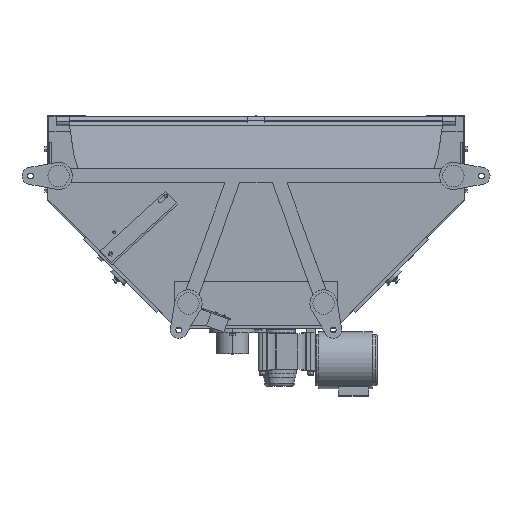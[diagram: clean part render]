
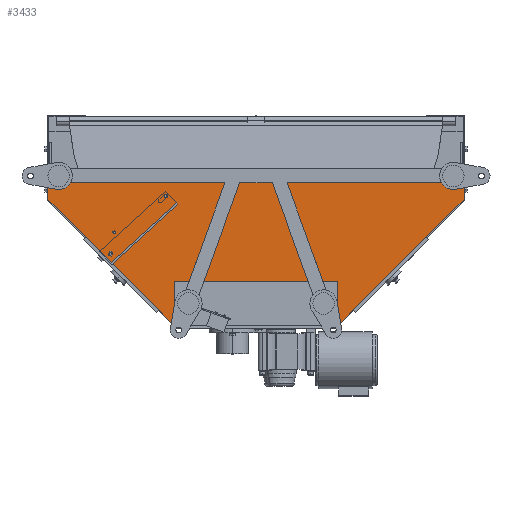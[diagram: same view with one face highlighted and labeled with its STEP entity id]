
A CAD part, front view. The second image highlights one B-rep face of the part: STEP entity #3433.
In plain terms, the highlighted planar face has unit normal (0, -1, 0).
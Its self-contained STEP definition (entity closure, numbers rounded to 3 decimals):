
#3433 = ADVANCED_FACE ( 'NONE', ( #35614 ), #21993, .F. ) ;
#4990 = LINE ( 'NONE', #26938, #11109 ) ;
#7091 = ORIENTED_EDGE ( 'NONE', *, *, #9271, .T. ) ;
#7639 = EDGE_CURVE ( 'NONE', #18145, #27531, #9164, .T. ) ;
#7873 = DIRECTION ( 'NONE',  ( 0.707, 0., -0.707 ) ) ;
#9036 = DIRECTION ( 'NONE',  ( 0.707, 0., 0.707 ) ) ;
#9041 = DIRECTION ( 'NONE',  ( 0., 0., 1. ) ) ;
#9164 = LINE ( 'NONE', #28361, #13799 ) ;
#9271 = EDGE_CURVE ( 'NONE', #31634, #17698, #19590, .T. ) ;
#9351 = DIRECTION ( 'NONE',  ( 0., 0., 1. ) ) ;
#9466 = CARTESIAN_POINT ( 'NONE',  ( 0., -152.1, 0. ) ) ;
#10146 = VECTOR ( 'NONE', #9036, 1000. ) ;
#11109 = VECTOR ( 'NONE', #36837, 1000. ) ;
#11226 = ORIENTED_EDGE ( 'NONE', *, *, #7639, .T. ) ;
#11320 = EDGE_LOOP ( 'NONE', ( #7091, #38059, #38546, #39751, #11226, #25002 ) ) ;
#12189 = DIRECTION ( 'NONE',  ( -1., 0., 0. ) ) ;
#12241 = CARTESIAN_POINT ( 'NONE',  ( -464.967, -152.1, -181.894 ) ) ;
#13799 = VECTOR ( 'NONE', #12189, 1000. ) ;
#17057 = LINE ( 'NONE', #40384, #24182 ) ;
#17698 = VERTEX_POINT ( 'NONE', #28785 ) ;
#18145 = VERTEX_POINT ( 'NONE', #18696 ) ;
#18696 = CARTESIAN_POINT ( 'NONE',  ( 464.967, -152.1, -114.5 ) ) ;
#18888 = EDGE_CURVE ( 'NONE', #17698, #20629, #4990, .T. ) ;
#19590 = LINE ( 'NONE', #36686, #33295 ) ;
#20629 = VERTEX_POINT ( 'NONE', #40820 ) ;
#21993 = PLANE ( 'NONE',  #29019 ) ;
#24182 = VECTOR ( 'NONE', #30708, 1000. ) ;
#25002 = ORIENTED_EDGE ( 'NONE', *, *, #31567, .T. ) ;
#25922 = VERTEX_POINT ( 'NONE', #41967 ) ;
#26340 = EDGE_CURVE ( 'NONE', #25922, #18145, #33188, .T. ) ;
#26938 = CARTESIAN_POINT ( 'NONE',  ( 183.461, -152.1, -463.4 ) ) ;
#27531 = VERTEX_POINT ( 'NONE', #31662 ) ;
#28361 = CARTESIAN_POINT ( 'NONE',  ( -464.967, -152.1, -114.5 ) ) ;
#28366 = CARTESIAN_POINT ( 'NONE',  ( 183.461, -152.1, -463.4 ) ) ;
#28370 = DIRECTION ( 'NONE',  ( 0., 1., 0. ) ) ;
#28785 = CARTESIAN_POINT ( 'NONE',  ( -183.461, -152.1, -463.4 ) ) ;
#28828 = CARTESIAN_POINT ( 'NONE',  ( 464.967, -152.1, -181.894 ) ) ;
#29019 = AXIS2_PLACEMENT_3D ( 'NONE', #9466, #28370, #9041 ) ;
#30708 = DIRECTION ( 'NONE',  ( 0., 0., -1. ) ) ;
#31464 = LINE ( 'NONE', #28366, #10146 ) ;
#31567 = EDGE_CURVE ( 'NONE', #27531, #31634, #17057, .T. ) ;
#31634 = VERTEX_POINT ( 'NONE', #12241 ) ;
#31662 = CARTESIAN_POINT ( 'NONE',  ( -464.967, -152.1, -114.5 ) ) ;
#33188 = LINE ( 'NONE', #28828, #41843 ) ;
#33295 = VECTOR ( 'NONE', #7873, 1000. ) ;
#35614 = FACE_OUTER_BOUND ( 'NONE', #11320, .T. ) ;
#36686 = CARTESIAN_POINT ( 'NONE',  ( -183.461, -152.1, -463.4 ) ) ;
#36837 = DIRECTION ( 'NONE',  ( 1., 0., 0. ) ) ;
#38059 = ORIENTED_EDGE ( 'NONE', *, *, #18888, .T. ) ;
#38546 = ORIENTED_EDGE ( 'NONE', *, *, #39394, .T. ) ;
#39394 = EDGE_CURVE ( 'NONE', #20629, #25922, #31464, .T. ) ;
#39751 = ORIENTED_EDGE ( 'NONE', *, *, #26340, .T. ) ;
#40384 = CARTESIAN_POINT ( 'NONE',  ( -464.967, -152.1, -181.894 ) ) ;
#40820 = CARTESIAN_POINT ( 'NONE',  ( 183.461, -152.1, -463.4 ) ) ;
#41843 = VECTOR ( 'NONE', #9351, 1000. ) ;
#41967 = CARTESIAN_POINT ( 'NONE',  ( 464.967, -152.1, -181.894 ) ) ;
